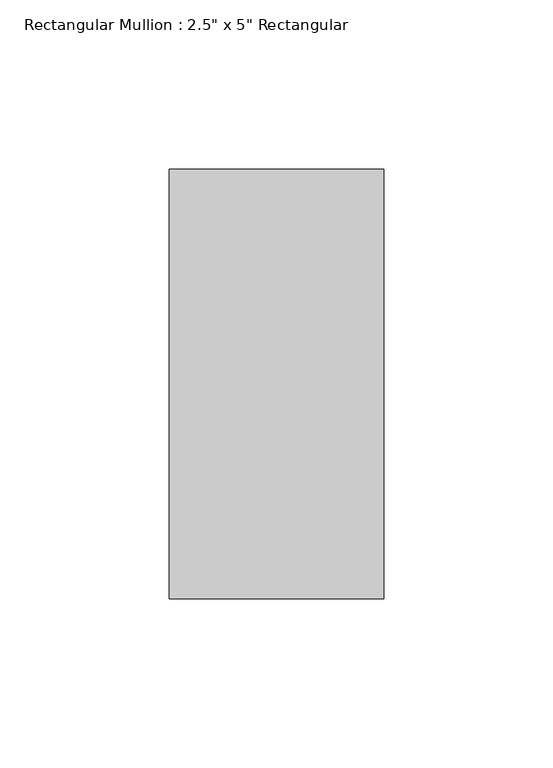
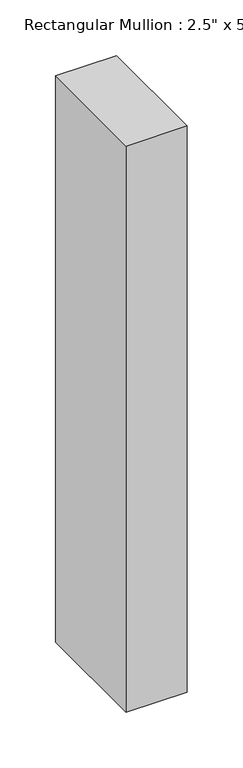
"""IFC4 building model written with IfcOpenShell, lengths in millimetres: member geometry."""

from ifc_helpers import new_model, si_unit, frame, origin, place, context, project, spatial, polyline, outline, extrude, source, transform, mapped, element, save


def member_e196a3dc(model_context):
    return source(origin(), model_context, "Body", "SweptSolid", [
        extrude(outline(polyline([(0.0, 63.5), (0.0, -63.5), (-63.5, -63.5), (-63.5, 63.5), (0.0, 63.5)])), frame((0.0, 0.0, -621.6), z_axis=(0.0, 0.0, 1.0), x_axis=(1.0, 0.0, 0.0)), (0.0, 0.0, 1.0), 621.6),
    ])


if __name__ == "__main__":
    model = new_model("IFC4")
    model_context = context("Model", 3, world=origin())
    ifc_project = project(units=[si_unit("LENGTHUNIT", "METRE", prefix="MILLI")], contexts=[model_context])
    site = spatial("IfcSite", under=ifc_project)
    building = spatial("IfcBuilding", under=site)
    placement = place(None, origin())
    member_shape = member_e196a3dc(model_context)
    element("IfcMember", 1, ObjectType="Rectangular Mullion : 2.5\" x 5\" Rectangular", at=placement, inside=building, context=model_context, shape_type="MappedRepresentation", body=[
        mapped(member_shape, transform((0.0, 0.0, 0.0), x_axis=(1.0, 0.0, 0.0), y_axis=(0.0, 1.0, 0.0), z_axis=(0.0, 0.0, 1.0))),
    ])
    save(model, "model.ifc")
